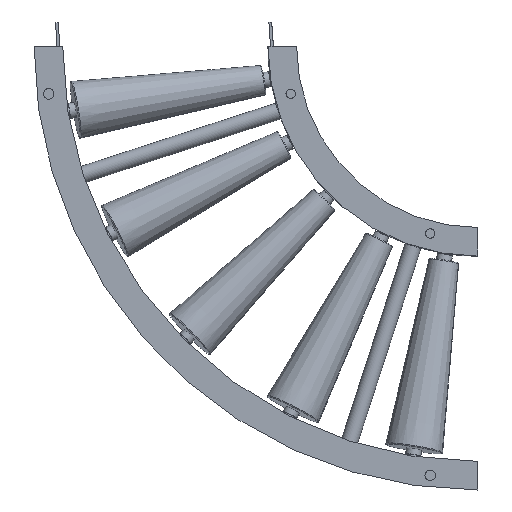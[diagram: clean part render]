
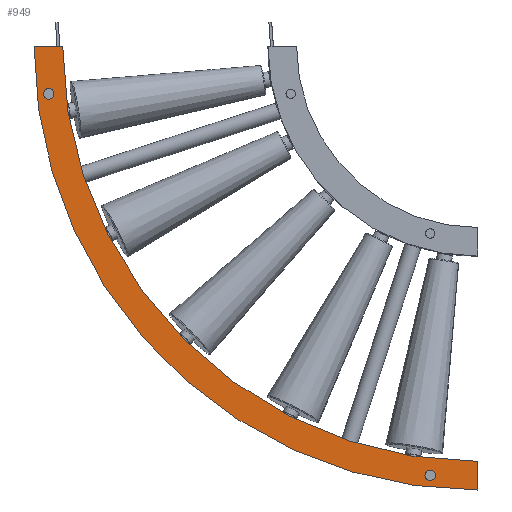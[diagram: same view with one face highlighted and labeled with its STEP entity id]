
A CAD part, front view. The second image highlights one B-rep face of the part: STEP entity #949.
In plain terms, the highlighted planar face has unit normal (0, -1, 0).
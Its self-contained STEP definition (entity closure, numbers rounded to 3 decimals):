
#61 = DIRECTION ( 'NONE',  ( 0., -1., 0. ) ) ;
#167 = ORIENTED_EDGE ( 'NONE', *, *, #3156, .F. ) ;
#665 = CIRCLE ( 'NONE', #8970, 465. ) ;
#930 = EDGE_LOOP ( 'NONE', ( #11336, #167 ) ) ;
#949 = ADVANCED_FACE ( 'NONE', ( #1995, #3850, #2109 ), #1181, .F. ) ;
#1181 = PLANE ( 'NONE',  #11436 ) ;
#1217 = CARTESIAN_POINT ( 'NONE',  ( -292.228, 32.93, 104.795 ) ) ;
#1226 = VERTEX_POINT ( 'NONE', #1217 ) ;
#1482 = EDGE_CURVE ( 'NONE', #2089, #8935, #10930, .T. ) ;
#1594 = AXIS2_PLACEMENT_3D ( 'NONE', #8545, #61, #7604 ) ;
#1808 = DIRECTION ( 'NONE',  ( 0., 0., 1. ) ) ;
#1995 = FACE_BOUND ( 'NONE', #10738, .T. ) ;
#2089 = VERTEX_POINT ( 'NONE', #2426 ) ;
#2109 = FACE_OUTER_BOUND ( 'NONE', #7768, .T. ) ;
#2426 = CARTESIAN_POINT ( 'NONE',  ( 172.772, 32.93, -360.205 ) ) ;
#2765 = LINE ( 'NONE', #8277, #11060 ) ;
#2784 = CARTESIAN_POINT ( 'NONE',  ( 122.772, 32.93, -344.934 ) ) ;
#2805 = VERTEX_POINT ( 'NONE', #5059 ) ;
#3028 = AXIS2_PLACEMENT_3D ( 'NONE', #11130, #3755, #9453 ) ;
#3156 = EDGE_CURVE ( 'NONE', #11466, #10332, #9110, .T. ) ;
#3389 = DIRECTION ( 'NONE',  ( 0., 0., 1. ) ) ;
#3394 = DIRECTION ( 'NONE',  ( 0., -1., 0. ) ) ;
#3435 = DIRECTION ( 'NONE',  ( 0., 0., 1. ) ) ;
#3539 = EDGE_CURVE ( 'NONE', #1226, #8773, #2765, .T. ) ;
#3755 = DIRECTION ( 'NONE',  ( 0., -1., 0. ) ) ;
#3850 = FACE_BOUND ( 'NONE', #930, .T. ) ;
#3969 = AXIS2_PLACEMENT_3D ( 'NONE', #2784, #11271, #4709 ) ;
#4070 = CARTESIAN_POINT ( 'NONE',  ( -276.957, 32.93, 49.295 ) ) ;
#4403 = CARTESIAN_POINT ( 'NONE',  ( 172.772, 32.93, 104.795 ) ) ;
#4462 = CARTESIAN_POINT ( 'NONE',  ( 122.772, 32.93, -339.434 ) ) ;
#4695 = EDGE_CURVE ( 'NONE', #5968, #2805, #6917, .T. ) ;
#4709 = DIRECTION ( 'NONE',  ( 0., 0., -1. ) ) ;
#4968 = DIRECTION ( 'NONE',  ( 0., 0., 1. ) ) ;
#5029 = CARTESIAN_POINT ( 'NONE',  ( 172.772, 32.93, 104.795 ) ) ;
#5047 = ORIENTED_EDGE ( 'NONE', *, *, #3539, .F. ) ;
#5059 = CARTESIAN_POINT ( 'NONE',  ( -276.957, 32.93, 60.295 ) ) ;
#5315 = DIRECTION ( 'NONE',  ( 0., 1., 0. ) ) ;
#5521 = DIRECTION ( 'NONE',  ( 0., 1., 0. ) ) ;
#5805 = CIRCLE ( 'NONE', #3028, 5.5 ) ;
#5967 = AXIS2_PLACEMENT_3D ( 'NONE', #4403, #5521, #1808 ) ;
#5968 = VERTEX_POINT ( 'NONE', #4070 ) ;
#6103 = EDGE_CURVE ( 'NONE', #2089, #1226, #665, .T. ) ;
#6200 = EDGE_CURVE ( 'NONE', #10332, #11466, #5805, .T. ) ;
#6557 = DIRECTION ( 'NONE',  ( 1., 0., 0. ) ) ;
#6890 = ORIENTED_EDGE ( 'NONE', *, *, #6103, .F. ) ;
#6917 = CIRCLE ( 'NONE', #1594, 5.5 ) ;
#7341 = CARTESIAN_POINT ( 'NONE',  ( 172.772, 32.93, -360.205 ) ) ;
#7604 = DIRECTION ( 'NONE',  ( 0., 0., -1. ) ) ;
#7768 = EDGE_LOOP ( 'NONE', ( #9263, #10127, #5047, #6890 ) ) ;
#8161 = CARTESIAN_POINT ( 'NONE',  ( -276.957, 32.93, 54.795 ) ) ;
#8277 = CARTESIAN_POINT ( 'NONE',  ( -292.228, 32.93, 104.795 ) ) ;
#8344 = CARTESIAN_POINT ( 'NONE',  ( 172.772, 32.93, -330.205 ) ) ;
#8545 = CARTESIAN_POINT ( 'NONE',  ( -276.957, 32.93, 54.795 ) ) ;
#8746 = CIRCLE ( 'NONE', #5967, 435. ) ;
#8762 = EDGE_CURVE ( 'NONE', #2805, #5968, #11896, .T. ) ;
#8773 = VERTEX_POINT ( 'NONE', #12051 ) ;
#8794 = DIRECTION ( 'NONE',  ( 0., 1., 0. ) ) ;
#8935 = VERTEX_POINT ( 'NONE', #8344 ) ;
#8970 = AXIS2_PLACEMENT_3D ( 'NONE', #11801, #5315, #3389 ) ;
#9110 = CIRCLE ( 'NONE', #3969, 5.5 ) ;
#9201 = ORIENTED_EDGE ( 'NONE', *, *, #8762, .F. ) ;
#9263 = ORIENTED_EDGE ( 'NONE', *, *, #1482, .T. ) ;
#9453 = DIRECTION ( 'NONE',  ( 0., 0., -1. ) ) ;
#9740 = ORIENTED_EDGE ( 'NONE', *, *, #4695, .F. ) ;
#10127 = ORIENTED_EDGE ( 'NONE', *, *, #11594, .T. ) ;
#10332 = VERTEX_POINT ( 'NONE', #10941 ) ;
#10703 = AXIS2_PLACEMENT_3D ( 'NONE', #8161, #3394, #10947 ) ;
#10738 = EDGE_LOOP ( 'NONE', ( #9740, #9201 ) ) ;
#10930 = LINE ( 'NONE', #7341, #12243 ) ;
#10941 = CARTESIAN_POINT ( 'NONE',  ( 122.772, 32.93, -350.434 ) ) ;
#10947 = DIRECTION ( 'NONE',  ( 0., 0., -1. ) ) ;
#11060 = VECTOR ( 'NONE', #6557, 1000. ) ;
#11130 = CARTESIAN_POINT ( 'NONE',  ( 122.772, 32.93, -344.934 ) ) ;
#11271 = DIRECTION ( 'NONE',  ( 0., -1., 0. ) ) ;
#11336 = ORIENTED_EDGE ( 'NONE', *, *, #6200, .F. ) ;
#11436 = AXIS2_PLACEMENT_3D ( 'NONE', #5029, #8794, #4968 ) ;
#11466 = VERTEX_POINT ( 'NONE', #4462 ) ;
#11594 = EDGE_CURVE ( 'NONE', #8935, #8773, #8746, .T. ) ;
#11801 = CARTESIAN_POINT ( 'NONE',  ( 172.772, 32.93, 104.795 ) ) ;
#11896 = CIRCLE ( 'NONE', #10703, 5.5 ) ;
#12051 = CARTESIAN_POINT ( 'NONE',  ( -262.228, 32.93, 104.795 ) ) ;
#12243 = VECTOR ( 'NONE', #3435, 1000. ) ;
